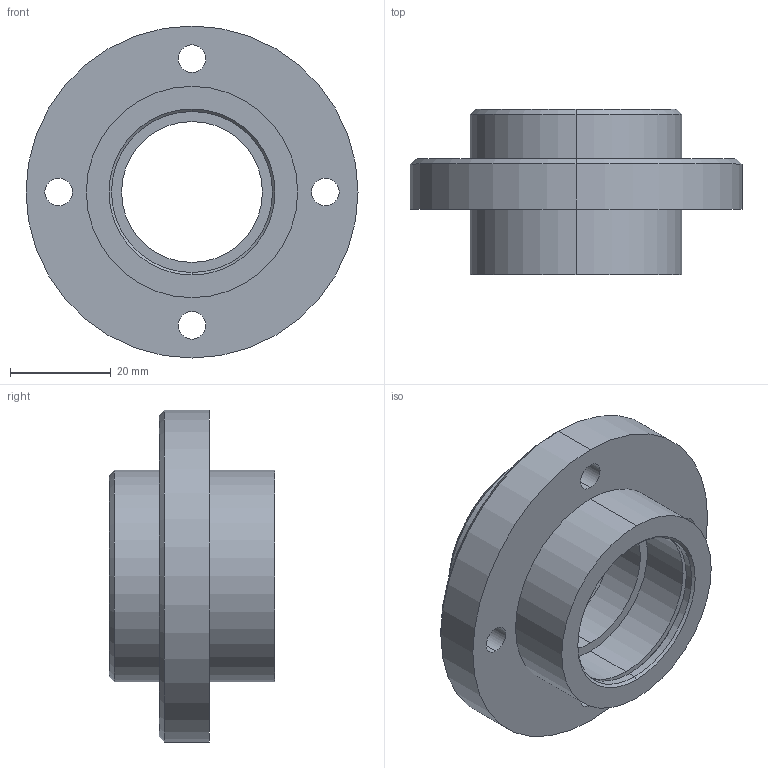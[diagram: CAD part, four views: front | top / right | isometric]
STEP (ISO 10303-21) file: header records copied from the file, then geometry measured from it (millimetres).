
FILE_DESCRIPTION (( 'STEP AP203' ), '1' );
FILE_NAME ('218-SJTSSR-ZPS-儒极唅蛌粣創釱.step', '2026-06-30T11:05:44', ( '' ), ( '' ), 'SwSTEP 2.0', 'SolidWorks 2024', '' );
FILE_SCHEMA (( 'CONFIG_CONTROL_DESIGN' ));
Length unit declared in the file: millimetre
Products named in the file (1): 218-SJTSSR-ZPS-晶体旋转轴承座
Bounding box: 66 x 32.9 x 66 mm (x, y, z)
Volume: 38741.3 mm3; surface area: 14910.5 mm2
Topology: 1 solids, 1 shells, 58 faces, 124 edges, 80 vertices
Faces by surface type: cylinder 36, plane 14, cone 8
Entity records: 1701 total; most frequent: DIRECTION 322, CARTESIAN_POINT 263, ORIENTED_EDGE 248, AXIS2_PLACEMENT_3D 139, EDGE_CURVE 124, CIRCLE 80, VERTEX_POINT 80, EDGE_LOOP 80
